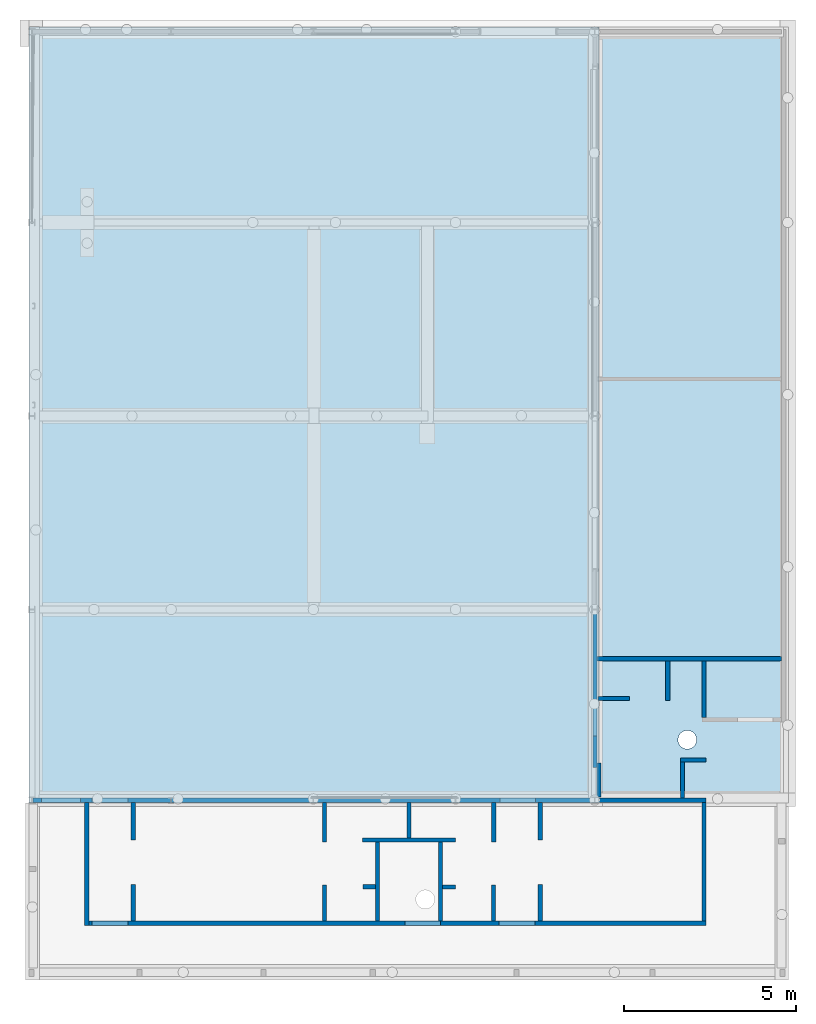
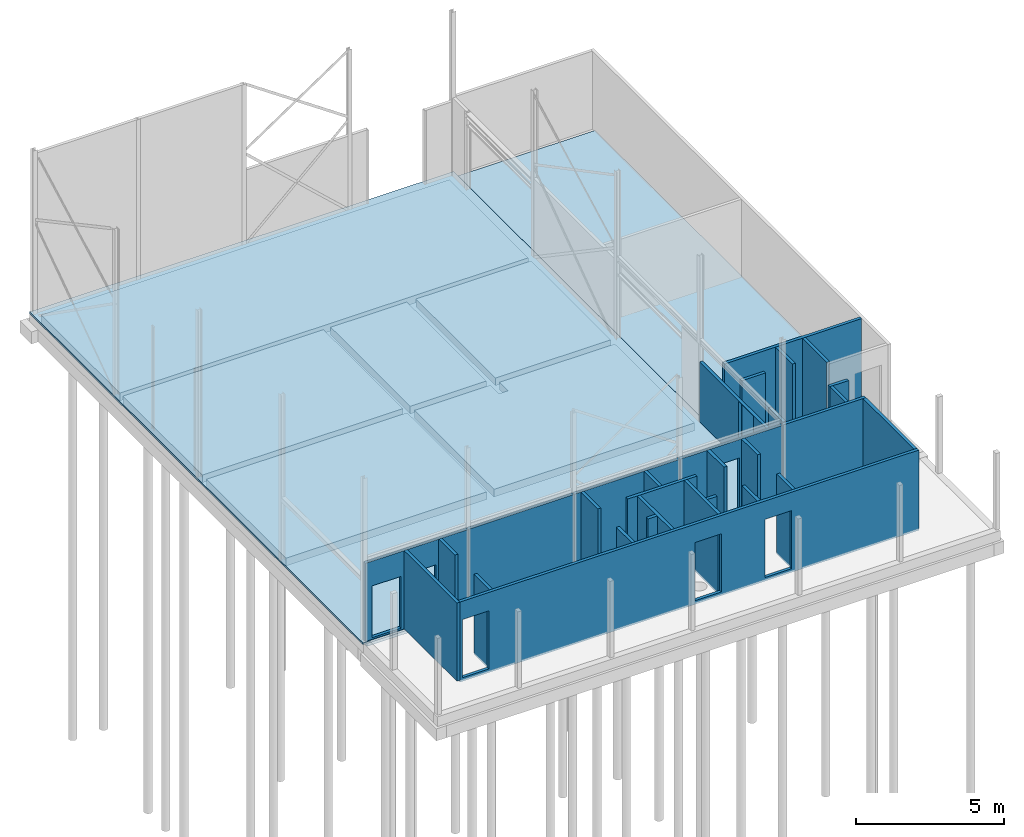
# One storey, part 9 of 17: 30 walls, 9 slabs, 8 openings.
"""IFC2X3 building model written with IfcOpenShell, lengths in millimetres."""

import ifcopenshell
import ifcopenshell.guid

model = None  # the IFC model being written
_history = None  # IfcOwnerHistory: only IFC2X3 demands one
_inside = {}  # id of a spatial element -> (the spatial element, [elements in it])
_under = {}  # id of a project, library or spatial element -> (it, [spatial elements below it])
_declared = {}  # id of a project -> (the project, [libraries it declares])
_typed = {}  # id of a type object -> (the type object, [elements of that type])
_made_of = {}  # id of a material, layer set ... -> (it, [elements and type objects made of it])


def new_model(schema):
    """Start an empty IFC model of exactly this schema.

    Asked for "IFC4X3", IfcOpenShell would pick the latest addendum, in which some entities
    have other attributes; the version numbers below select the first issue.
    IFC2X3 requires an IfcOwnerHistory on every rooted entity: one is made here for all.
    """
    global model, _history
    if schema == "IFC4X3":
        model = ifcopenshell.file(schema_version=(4, 3, 0, 0))
    else:
        model = ifcopenshell.file(schema=schema)
    _inside.clear()
    _under.clear()
    _declared.clear()
    _typed.clear()
    _made_of.clear()
    _history = None
    if model.schema == "IFC2X3":
        org = make("IfcOrganization", Name="unknown")
        user = make(
            "IfcPersonAndOrganization",
            ThePerson=make("IfcPerson", FamilyName="unknown"),
            TheOrganization=org,
        )
        app = make(
            "IfcApplication",
            ApplicationDeveloper=org,
            Version="unknown",
            ApplicationFullName="unknown",
            ApplicationIdentifier="unknown",
        )
        _history = make(
            "IfcOwnerHistory",
            OwningUser=user,
            OwningApplication=app,
            ChangeAction="ADDED",
            CreationDate=0,
        )
    return model


def make(cls, **values):
    """One entity of the class cls with the attributes given. An attribute that is None is left unset."""
    return model.create_entity(
        cls, **{name: value for name, value in values.items() if value is not None}
    )


def entity(cls, *values):
    """Any entity or typed value of the class cls, its attributes in the order of the schema. None: left unset."""
    e = model.create_entity(cls)
    for i, value in enumerate(values):
        if value is not None:
            e[i] = value
    return e


def rooted(cls, **values):
    """An entity with a GlobalId (a new one), such as an element, a storey or a relation."""
    return make(cls, GlobalId=ifcopenshell.guid.new(), OwnerHistory=_history, **values)


def si_unit(unit_type, name, prefix=None):
    """IfcSIUnit, for example si_unit("LENGTHUNIT", "METRE", prefix="MILLI")."""
    return make("IfcSIUnit", UnitType=unit_type, Prefix=prefix, Name=name)


def converted_unit(unit_type, name, factor, base, dimensions=None, offset=None):
    """IfcConversionBasedUnit, such as the inch: factor (a typed value) times the base unit."""
    return make(
        "IfcConversionBasedUnit"
        if offset is None
        else "IfcConversionBasedUnitWithOffset",
        ConversionOffset=offset,
        Dimensions=None
        if dimensions is None
        else entity("IfcDimensionalExponents", *dimensions),
        UnitType=unit_type,
        Name=name,
        ConversionFactor=make(
            "IfcMeasureWithUnit", ValueComponent=factor, UnitComponent=base
        ),
    )


def derived_unit(unit_type, elements):
    """IfcDerivedUnit: a product of units, each with its exponent."""
    return make(
        "IfcDerivedUnit",
        Elements=[
            make("IfcDerivedUnitElement", Unit=unit, Exponent=power)
            for unit, power in elements
        ],
        UnitType=unit_type,
    )


def assignment(units):
    """IfcUnitAssignment: the units of a project."""
    return None if units is None else make("IfcUnitAssignment", Units=units)


def point(xyz):
    """IfcCartesianPoint."""
    return None if xyz is None else make("IfcCartesianPoint", Coordinates=xyz)


def direction(xyz):
    """IfcDirection."""
    return None if xyz is None else make("IfcDirection", DirectionRatios=xyz)


def frame(location, z_axis=None, x_axis=None):
    """IfcAxis2Placement3D, a coordinate frame: its origin and axes. An axis left out is left unset."""
    return make(
        "IfcAxis2Placement3D",
        Location=point(location),
        Axis=direction(z_axis),
        RefDirection=direction(x_axis),
    )


def frame_2d(location, x_axis=None):
    """IfcAxis2Placement2D, a coordinate frame in the plane: its origin and x axis."""
    return make(
        "IfcAxis2Placement2D", Location=point(location), RefDirection=direction(x_axis)
    )


def origin():
    """The frame at (0, 0, 0) with its axes left unset."""
    return frame((0.0, 0.0, 0.0))


def origin_2d_with_axis():
    """The frame at (0, 0) in the plane with the x axis (1, 0) written out."""
    return frame_2d((0.0, 0.0), x_axis=(1.0, 0.0))


def place(relative_to, where):
    """IfcLocalPlacement: puts the frame where relative to a parent placement (None: the world)."""
    return make(
        "IfcLocalPlacement", PlacementRelTo=relative_to, RelativePlacement=where
    )


def context(
    kind, dimensions, precision=None, world=None, true_north=None, identifier=None
):
    """IfcGeometricRepresentationContext, for example the 3D "Model" context."""
    return make(
        "IfcGeometricRepresentationContext",
        ContextIdentifier=identifier,
        ContextType=kind,
        CoordinateSpaceDimension=dimensions,
        Precision=precision,
        WorldCoordinateSystem=world,
        TrueNorth=true_north,
    )


def subcontext(parent, identifier, kind, view, scale=None):
    """IfcGeometricRepresentationSubContext, for example "Body" below "Model"."""
    return make(
        "IfcGeometricRepresentationSubContext",
        ContextIdentifier=identifier,
        ContextType=kind,
        ParentContext=parent,
        TargetScale=scale,
        TargetView=view,
    )


def project(units=None, contexts=None):
    """IfcProject with its units and contexts."""
    return rooted(
        "IfcProject",
        Name="project",
        RepresentationContexts=contexts,
        UnitsInContext=assignment(units),
    )


def spatial(cls, under=None, at=None, **own):
    """A site, building, storey or space (cls), placed at a placement, below another one or the project."""
    s = rooted(cls, ObjectPlacement=at, **own)
    if under is not None:
        _under.setdefault(under.id(), (under, []))[1].append(s)
    return s


def polyline(points):
    """IfcPolyline through the points."""
    return make("IfcPolyline", Points=[point(p) for p in points])


def profile(cls, at=None, kind="AREA", **sizes):
    """A parametric profile (cls). Its sizes go by their IFC names, for example OverallWidth=200.0."""
    return make(cls, ProfileType=kind, Position=at, **sizes)


def rectangle(**sizes):
    """IfcRectangleProfileDef."""
    return profile("IfcRectangleProfileDef", **sizes)


def circle(**sizes):
    """IfcCircleProfileDef."""
    return profile("IfcCircleProfileDef", **sizes)


def outline(outer, holes=None, kind="AREA"):
    """IfcArbitraryClosedProfileDef: a profile drawn as a closed curve; with holes, ...WithVoids."""
    if holes is None:
        return make("IfcArbitraryClosedProfileDef", ProfileType=kind, OuterCurve=outer)
    return make(
        "IfcArbitraryProfileDefWithVoids",
        ProfileType=kind,
        OuterCurve=outer,
        InnerCurves=holes,
    )


def extrude(swept, where, along, depth):
    """IfcExtrudedAreaSolid: the profile swept, set in the frame where, extruded along a direction by depth."""
    return make(
        "IfcExtrudedAreaSolid",
        SweptArea=swept,
        Position=where,
        ExtrudedDirection=direction(along),
        Depth=depth,
    )


def clip(a, b, op="DIFFERENCE"):
    """IfcBooleanClippingResult: the solid a cut by the half space b."""
    return make(
        "IfcBooleanClippingResult", Operator=op, FirstOperand=a, SecondOperand=b
    )


def halfspace(plane, agree):
    """IfcHalfSpaceSolid: all space on one side of the plane z = 0 of the frame plane."""
    return make(
        "IfcHalfSpaceSolid",
        BaseSurface=make("IfcPlane", Position=plane),
        AgreementFlag=agree,
    )


def shape(context_of_items, identifier, shape_type, items):
    """IfcShapeRepresentation: the items that make up one representation, for example the "Body"."""
    return make(
        "IfcShapeRepresentation",
        ContextOfItems=context_of_items,
        RepresentationIdentifier=identifier,
        RepresentationType=shape_type,
        Items=items,
    )


def material(Name=None, Category=None):
    """IfcMaterial."""
    return make("IfcMaterial", Name=Name, Category=Category)


def layer(
    of_material, thickness, ventilated=None, Name=None, Category=None, Priority=None
):
    """IfcMaterialLayer: one layer of a wall or slab, of a material (None: an air gap)."""
    return make(
        "IfcMaterialLayer",
        Material=of_material,
        LayerThickness=thickness,
        IsVentilated=ventilated,
        Name=Name,
        Category=Category,
        Priority=Priority,
    )


def layer_set(layers, Name=None):
    """IfcMaterialLayerSet."""
    return make("IfcMaterialLayerSet", MaterialLayers=layers, LayerSetName=Name)


def layer_usage(for_layer_set, set_direction, sense, offset, extent=None):
    """IfcMaterialLayerSetUsage: how a layer set lies in its element."""
    return make(
        "IfcMaterialLayerSetUsage",
        ForLayerSet=for_layer_set,
        LayerSetDirection=set_direction,
        DirectionSense=sense,
        OffsetFromReferenceLine=offset,
        ReferenceExtent=extent,
    )


def made_of(thing, what):
    """Note that an element or type object is made of a material, layer set ...; save() writes the relation."""
    if what is not None:
        _made_of.setdefault(what.id(), (what, []))[1].append(thing)
    return thing


def type_object(cls, material=None, **own):
    """A type object (cls), such as IfcWallType, which elements share."""
    return made_of(rooted(cls, **own), material)


def element(
    cls,
    number,
    at=None,
    inside=None,
    cuts=None,
    type_object=None,
    material=None,
    context=None,
    identifier="Body",
    shape_type=None,
    held_by="IfcProductDefinitionShape",
    body=None,
    shapes=None,
    **own,
):
    """One element of the class cls, such as IfcWall. Its Tag is "e" and its number.

    at: its placement. inside: the storey or other place that contains it. cuts: it is an
    opening in that element (IfcRelVoidsElement). A single representation is given by context,
    identifier, shape_type and body (its items); several are given by shapes. held_by: the class
    of the entity that holds the representations. save() writes the other relations.
    """
    e = rooted(cls, Tag="e%d" % number, ObjectPlacement=at, **own)
    if body is not None:
        shapes = [shape(context, identifier, shape_type, body)]
    if shapes is not None:
        e.Representation = make(held_by, Representations=shapes)
    if inside is not None:
        _inside.setdefault(inside.id(), (inside, []))[1].append(e)
    if cuts is not None:
        rooted(
            "IfcRelVoidsElement", RelatingBuildingElement=cuts, RelatedOpeningElement=e
        )
    if type_object is not None:
        _typed.setdefault(type_object.id(), (type_object, []))[1].append(e)
    return made_of(e, material)


def aggregate(whole, parts):
    """IfcRelAggregates: a whole, such as a stair, and the parts it consists of."""
    return rooted("IfcRelAggregates", RelatingObject=whole, RelatedObjects=parts)


def save(model, path):
    """Write the relations noted so far, then the file.

    IfcRelAggregates (storeys below a building ...), IfcRelContainedInSpatialStructure (elements
    in a storey), IfcRelDefinesByType, IfcRelAssociatesMaterial and IfcRelDeclares: one each for
    every whole, place, type object, material and project.
    """
    for whole, parts in _under.values():
        aggregate(whole, parts)
    for where, things in _inside.values():
        rooted(
            "IfcRelContainedInSpatialStructure",
            RelatedElements=things,
            RelatingStructure=where,
        )
    for kind, things in _typed.values():
        rooted("IfcRelDefinesByType", RelatedObjects=things, RelatingType=kind)
    for what, things in _made_of.values():
        rooted("IfcRelAssociatesMaterial", RelatedObjects=things, RelatingMaterial=what)
    for by, libraries in _declared.values():
        rooted("IfcRelDeclares", RelatingContext=by, RelatedDefinitions=libraries)
    model.write(path)


model = new_model("IFC2X3")

# Units and contexts
model_context = context("Model", 3, precision=0.01, world=origin(), true_north=direction((6.123031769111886e-17, 1.0)))
plan_context = context("Plan", 3, precision=0.01, world=origin(), true_north=direction((6.123031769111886e-17, 1.0)))
body_context = subcontext(model_context, "Body", "Model", "MODEL_VIEW")
ifc_project = project(units=[si_unit("LENGTHUNIT", "METRE", prefix="MILLI"), si_unit("AREAUNIT", "SQUARE_METRE"), si_unit("VOLUMEUNIT", "CUBIC_METRE"), converted_unit("PLANEANGLEUNIT", "DEGREE", entity("IfcPlaneAngleMeasure", 0.017453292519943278), si_unit("PLANEANGLEUNIT", "RADIAN"), dimensions=[0, 0, 0, 0, 0, 0, 0]), si_unit("MASSUNIT", "GRAM", prefix="KILO"), derived_unit("MASSDENSITYUNIT", [(si_unit("MASSUNIT", "GRAM", prefix="KILO"), 1), (si_unit("LENGTHUNIT", "METRE"), -3)]), derived_unit("IONCONCENTRATIONUNIT", [(si_unit("MASSUNIT", "GRAM", prefix="KILO"), 1), (si_unit("LENGTHUNIT", "METRE"), -3)]), derived_unit("MOMENTOFINERTIAUNIT", [(si_unit("LENGTHUNIT", "METRE"), 4)]), si_unit("TIMEUNIT", "SECOND"), si_unit("FREQUENCYUNIT", "HERTZ"), si_unit("THERMODYNAMICTEMPERATUREUNIT", "DEGREE_CELSIUS"), derived_unit("THERMALTRANSMITTANCEUNIT", [(si_unit("MASSUNIT", "GRAM", prefix="KILO"), 1), (si_unit("THERMODYNAMICTEMPERATUREUNIT", "KELVIN"), -1), (si_unit("TIMEUNIT", "SECOND"), -3)]), derived_unit("THERMALCONDUCTANCEUNIT", [(si_unit("MASSUNIT", "GRAM", prefix="KILO"), 1), (si_unit("THERMODYNAMICTEMPERATUREUNIT", "KELVIN"), -1), (si_unit("TIMEUNIT", "SECOND"), -3), (si_unit("LENGTHUNIT", "METRE"), 1)]), derived_unit("VOLUMETRICFLOWRATEUNIT", [(si_unit("LENGTHUNIT", "METRE", prefix="DECI"), 3), (si_unit("TIMEUNIT", "SECOND"), -1)]), derived_unit("MASSFLOWRATEUNIT", [(si_unit("MASSUNIT", "GRAM", prefix="KILO"), 1), (si_unit("TIMEUNIT", "SECOND"), -1)]), derived_unit("ROTATIONALFREQUENCYUNIT", [(si_unit("TIMEUNIT", "SECOND"), -1)]), si_unit("ELECTRICCURRENTUNIT", "AMPERE"), si_unit("ELECTRICVOLTAGEUNIT", "VOLT"), si_unit("POWERUNIT", "WATT"), si_unit("FORCEUNIT", "NEWTON", prefix="KILO"), si_unit("ILLUMINANCEUNIT", "LUX"), si_unit("LUMINOUSFLUXUNIT", "LUMEN"), si_unit("LUMINOUSINTENSITYUNIT", "CANDELA"), si_unit("ENERGYUNIT", "JOULE"), derived_unit("USERDEFINED", [(si_unit("MASSUNIT", "GRAM", prefix="KILO"), -1), (si_unit("LENGTHUNIT", "METRE"), -2), (si_unit("TIMEUNIT", "SECOND"), 3), (si_unit("LUMINOUSFLUXUNIT", "LUMEN"), 1)]), derived_unit("USERDEFINED", [(si_unit("MASSUNIT", "GRAM", prefix="KILO"), 1), (si_unit("TIMEUNIT", "SECOND"), -3), (si_unit("LENGTHUNIT", "METRE"), 3), (si_unit("ELECTRICCURRENTUNIT", "AMPERE"), -2)]), derived_unit("SOUNDPOWERUNIT", [(si_unit("MASSUNIT", "GRAM", prefix="KILO"), 1), (si_unit("TIMEUNIT", "SECOND"), -3), (si_unit("LENGTHUNIT", "METRE"), 2)]), derived_unit("SOUNDPRESSUREUNIT", [(si_unit("MASSUNIT", "GRAM", prefix="KILO"), 1), (si_unit("LENGTHUNIT", "METRE"), -1), (si_unit("TIMEUNIT", "SECOND"), -2)]), derived_unit("LINEARVELOCITYUNIT", [(si_unit("LENGTHUNIT", "METRE"), 1), (si_unit("TIMEUNIT", "SECOND"), -1)]), si_unit("PRESSUREUNIT", "PASCAL"), derived_unit("USERDEFINED", [(si_unit("MASSUNIT", "GRAM", prefix="KILO"), 1), (si_unit("LENGTHUNIT", "METRE"), -2), (si_unit("TIMEUNIT", "SECOND"), -2)]), derived_unit("LINEARFORCEUNIT", [(si_unit("MASSUNIT", "GRAM", prefix="KILO"), 1), (si_unit("TIMEUNIT", "SECOND"), -2)]), derived_unit("PLANARFORCEUNIT", [(si_unit("MASSUNIT", "GRAM", prefix="KILO"), 1), (si_unit("LENGTHUNIT", "METRE"), -1), (si_unit("TIMEUNIT", "SECOND"), -2)]), derived_unit("SPECIFICHEATCAPACITYUNIT", [(si_unit("THERMODYNAMICTEMPERATUREUNIT", "KELVIN"), -1), (si_unit("LENGTHUNIT", "METRE"), 2), (si_unit("TIMEUNIT", "SECOND"), -2)]), derived_unit("HEATFLUXDENSITYUNIT", [(si_unit("MASSUNIT", "GRAM", prefix="KILO"), 1), (si_unit("TIMEUNIT", "SECOND"), -3)]), derived_unit("HEATINGVALUEUNIT", [(si_unit("LENGTHUNIT", "METRE"), 2), (si_unit("TIMEUNIT", "SECOND"), -2)]), derived_unit("VAPORPERMEABILITYUNIT", [(si_unit("LENGTHUNIT", "METRE"), -1), (si_unit("TIMEUNIT", "SECOND"), 1)]), derived_unit("DYNAMICVISCOSITYUNIT", [(si_unit("MASSUNIT", "GRAM", prefix="KILO"), 1), (si_unit("TIMEUNIT", "SECOND"), -1), (si_unit("LENGTHUNIT", "METRE"), -1)]), derived_unit("THERMALEXPANSIONCOEFFICIENTUNIT", [(si_unit("THERMODYNAMICTEMPERATUREUNIT", "KELVIN"), -1)]), derived_unit("MODULUSOFELASTICITYUNIT", [(si_unit("MASSUNIT", "GRAM", prefix="KILO"), 1), (si_unit("LENGTHUNIT", "METRE"), -1), (si_unit("TIMEUNIT", "SECOND"), -2)]), derived_unit("ISOTHERMALMOISTURECAPACITYUNIT", [(si_unit("MASSUNIT", "GRAM", prefix="KILO"), -1), (si_unit("LENGTHUNIT", "METRE"), 3)]), derived_unit("MOISTUREDIFFUSIVITYUNIT", [(si_unit("TIMEUNIT", "SECOND"), -1), (si_unit("LENGTHUNIT", "METRE"), 2)]), derived_unit("MASSPERLENGTHUNIT", [(si_unit("MASSUNIT", "GRAM", prefix="KILO"), 1), (si_unit("LENGTHUNIT", "METRE"), -1)]), derived_unit("THERMALRESISTANCEUNIT", [(si_unit("MASSUNIT", "GRAM", prefix="KILO"), -1), (si_unit("TIMEUNIT", "SECOND"), 3), (si_unit("THERMODYNAMICTEMPERATUREUNIT", "KELVIN"), 1)]), derived_unit("ACCELERATIONUNIT", [(si_unit("LENGTHUNIT", "METRE"), 1), (si_unit("TIMEUNIT", "SECOND"), -2)]), derived_unit("ANGULARVELOCITYUNIT", [(si_unit("TIMEUNIT", "SECOND"), -1), (si_unit("PLANEANGLEUNIT", "RADIAN"), 1)]), derived_unit("LINEARSTIFFNESSUNIT", [(si_unit("MASSUNIT", "GRAM", prefix="KILO"), 1), (si_unit("TIMEUNIT", "SECOND"), -2)]), derived_unit("WARPINGCONSTANTUNIT", [(si_unit("LENGTHUNIT", "METRE"), 6)]), derived_unit("LINEARMOMENTUNIT", [(si_unit("MASSUNIT", "GRAM", prefix="KILO"), 1), (si_unit("LENGTHUNIT", "METRE"), 1), (si_unit("TIMEUNIT", "SECOND"), -2)]), derived_unit("TORQUEUNIT", [(si_unit("MASSUNIT", "GRAM", prefix="KILO"), 1), (si_unit("LENGTHUNIT", "METRE"), 2), (si_unit("TIMEUNIT", "SECOND"), -2)])], contexts=[model_context, plan_context])

# Site, building, storey
site_placement = place(None, origin())
site = spatial("IfcSite", under=ifc_project, at=site_placement, Name="Default", CompositionType="ELEMENT")
building_placement = place(site_placement, origin())
building = spatial("IfcBuilding", under=site, at=building_placement, CompositionType="ELEMENT")
storey_placement = place(building_placement, origin())
storey = spatial("IfcBuildingStorey", under=building, at=storey_placement, Name="00 begane grond", CompositionType="ELEMENT", Elevation=0.0)

# Slabs
ifc_material_1 = material(Name="prefab beton")
ifc_layer_1 = layer(ifc_material_1, 200.0)
ifc_material_2 = material(Name="EPS vloerisolatie")
ifc_layer_2 = layer(ifc_material_2, 120.0)
ifc_layer_set_1 = layer_set([ifc_layer_1, ifc_layer_2], Name="Floor:23.21_FL_LB_geïsoleerde kanaalplaatvloer 200-Rc=3,7_dw")
ifc_layer_usage_1 = layer_usage(ifc_layer_set_1, "AXIS3", "POSITIVE", 0.0)
slab_type_1 = type_object("IfcSlabType", Name="Floor:23.21_FL_LB_geïsoleerde kanaalplaatvloer 200-Rc=3,7_dw", PredefinedType="FLOOR", material=ifc_layer_set_1)
slab_1_placement = place(storey_placement, frame((34366.19293735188, 16497.670340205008, -470.0)))
element("IfcSlab", 1, at=slab_1_placement, inside=storey, type_object=slab_type_1, material=ifc_layer_usage_1, Name="Floor:23.21_FL_LB_geïsoleerde kanaalplaatvloer 200-Rc=3,7_dw", ObjectType="Floor:23.21_FL_LB_geïsoleerde kanaalplaatvloer 200-Rc=3,7_dw", PredefinedType="FLOOR", context=body_context, shape_type="SweptSolid", body=[
    extrude(rectangle(XDim=5330.000000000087, YDim=15949.999999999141, at=frame_2d((0.0, 8357.500000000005), x_axis=(0.0, -1.0))), frame((7975.0, 11022.500000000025, 320.0), z_axis=(0.0, 0.0, -1.0), x_axis=(-1.0, 0.0, 0.0)), (0.0, 0.0, 1.0), 320.0),
])
slab_2_placement = place(storey_placement, frame((34366.19293735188, 16497.670340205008, -470.0)))
element("IfcSlab", 2, at=slab_2_placement, inside=storey, type_object=slab_type_1, material=ifc_layer_usage_1, Name="Floor:23.21_FL_LB_geïsoleerde kanaalplaatvloer 200-Rc=3,7_dw:2", ObjectType="Floor:23.21_FL_LB_geïsoleerde kanaalplaatvloer 200-Rc=3,7_dw", PredefinedType="FLOOR", context=body_context, shape_type="SweptSolid", body=[
    extrude(rectangle(XDim=7838.955664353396, YDim=5379.999999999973, at=frame_2d((4055.522167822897, -2857.5000000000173), x_axis=(-1.0, 0.0))), frame((7975.0, 11022.500000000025, 320.0), z_axis=(0.0, 0.0, -1.0), x_axis=(-1.0, 0.0, 0.0)), (0.0, 0.0, 1.0), 320.0),
])
slab_3_placement = place(storey_placement, frame((34366.19293735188, 16497.670340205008, -470.0)))
element("IfcSlab", 3, at=slab_3_placement, inside=storey, type_object=slab_type_1, material=ifc_layer_usage_1, Name="Floor:23.21_FL_LB_geïsoleerde kanaalplaatvloer 200-Rc=3,7_dw:3", ObjectType="Floor:23.21_FL_LB_geïsoleerde kanaalplaatvloer 200-Rc=3,7_dw", PredefinedType="FLOOR", context=body_context, shape_type="SweptSolid", body=[
    extrude(rectangle(XDim=5274.999999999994, YDim=15949.999999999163, at=frame_2d((0.0, -8385.0), x_axis=(0.0, 1.0))), frame((7975.0, 11022.500000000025, 320.0), z_axis=(0.0, 0.0, -1.0), x_axis=(-1.0, 0.0, 0.0)), (0.0, 0.0, 1.0), 320.0),
])
slab_4_placement = place(storey_placement, frame((34366.19293735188, 16497.670340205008, -470.0)))
element("IfcSlab", 4, at=slab_4_placement, inside=storey, type_object=slab_type_1, material=ifc_layer_usage_1, Name="Floor:23.21_FL_LB_geïsoleerde kanaalplaatvloer 200-Rc=3,7_dw:4", ObjectType="Floor:23.21_FL_LB_geïsoleerde kanaalplaatvloer 200-Rc=3,7_dw", PredefinedType="FLOOR", context=body_context, shape_type="SweptSolid", body=[
    extrude(outline(polyline([(-7975.0, -5547.500000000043), (-143.95566435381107, -5547.500000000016), (-143.95566435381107, -5447.500000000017), (-143.95566435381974, -167.50000000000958), (-3115.466666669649, -167.50000000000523), (-3115.466666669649, -747.500000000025), (-3465.4666666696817, -747.500000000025), (-3465.4666666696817, -167.50000000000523), (-7975.0, -167.50000000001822), (-7975.0, -5547.500000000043)])), frame((7975.0, 11022.500000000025, 320.0), z_axis=(0.0, 0.0, -1.0), x_axis=(-1.0, 0.0, 0.0)), (0.0, 0.0, 1.0), 320.0),
])
slab_5_placement = place(storey_placement, frame((34366.19293735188, 16497.670340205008, -470.0)))
element("IfcSlab", 5, at=slab_5_placement, inside=storey, type_object=slab_type_1, material=ifc_layer_usage_1, Name="Floor:23.21_FL_LB_geïsoleerde kanaalplaatvloer 200-Rc=3,7_dw:5", ObjectType="Floor:23.21_FL_LB_geïsoleerde kanaalplaatvloer 200-Rc=3,7_dw", PredefinedType="FLOOR", context=body_context, shape_type="SweptSolid", body=[
    extrude(rectangle(XDim=4504.533333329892, YDim=5379.999999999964, at=frame_2d((-5722.733333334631, 2802.4999999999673), x_axis=(-1.0, 0.0))), frame((7975.0, 11022.500000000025, 320.0), z_axis=(0.0, 0.0, -1.0), x_axis=(-1.0, 0.0, 0.0)), (0.0, 0.0, 1.0), 320.0),
])
slab_6_placement = place(storey_placement, frame((34366.19293735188, 16497.670340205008, -470.0)))
element("IfcSlab", 6, at=slab_6_placement, inside=storey, type_object=slab_type_1, material=ifc_layer_usage_1, Name="Floor:23.21_FL_LB_geïsoleerde kanaalplaatvloer 200-Rc=3,7_dw:6", ObjectType="Floor:23.21_FL_LB_geïsoleerde kanaalplaatvloer 200-Rc=3,7_dw", PredefinedType="FLOOR", context=body_context, shape_type="SweptSolid", body=[
    extrude(rectangle(XDim=2976.5110023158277, YDim=5379.999999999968, at=frame_2d((-1632.211165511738, 2802.49999999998), x_axis=(1.0, 0.0))), frame((7975.0, 11022.500000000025, 320.0), z_axis=(0.0, 0.0, -1.0), x_axis=(-1.0, 0.0, 0.0)), (0.0, 0.0, 1.0), 320.0),
])
slab_7_placement = place(storey_placement, frame((34366.19293735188, 16497.670340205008, -470.0)))
element("IfcSlab", 7, at=slab_7_placement, inside=storey, type_object=slab_type_1, material=ifc_layer_usage_1, Name="Floor:23.21_FL_LB_geïsoleerde kanaalplaatvloer 200-Rc=3,7_dw:7", ObjectType="Floor:23.21_FL_LB_geïsoleerde kanaalplaatvloer 200-Rc=3,7_dw", PredefinedType="FLOOR", context=body_context, shape_type="SweptSolid", body=[
    extrude(rectangle(XDim=7838.955664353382, YDim=5380.0000000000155, at=frame_2d((4055.522167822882, 2802.4999999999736), x_axis=(1.0, 0.0))), frame((7975.0, 11022.500000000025, 320.0), z_axis=(0.0, 0.0, -1.0), x_axis=(-1.0, 0.0, 0.0)), (0.0, 0.0, 1.0), 320.0),
])

# Slab, opening
ifc_layer_3 = layer(ifc_material_1, 200.0)
ifc_layer_4 = layer(ifc_material_2, 200.0)
ifc_layer_set_2 = layer_set([ifc_layer_3, ifc_layer_4], Name="Floor:23.21_FL_LB_geïsoleerde kanaalplaatvloer 200-Rc=6,5_dw")
ifc_layer_usage_2 = layer_usage(ifc_layer_set_2, "AXIS3", "POSITIVE", 0.0)
slab_type_2 = type_object("IfcSlabType", Name="Floor:23.21_FL_LB_geïsoleerde kanaalplaatvloer 200-Rc=6,5_dw", PredefinedType="FLOOR", material=ifc_layer_set_2)
slab_8_placement = place(storey_placement, frame((50616.19293735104, 16547.670340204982, -470.0)))
slab_8 = element("IfcSlab", 8, at=slab_8_placement, inside=storey, type_object=slab_type_2, material=ifc_layer_usage_2, Name="Floor:23.21_FL_LB_geïsoleerde kanaalplaatvloer 200-Rc=6,5_dw", ObjectType="Floor:23.21_FL_LB_geïsoleerde kanaalplaatvloer 200-Rc=6,5_dw", PredefinedType="FLOOR", context=body_context, shape_type="SweptSolid", body=[
    extrude(rectangle(XDim=21945.00000000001, YDim=5360.000000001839, at=frame_2d((0.0, 0.0), x_axis=(0.0, -1.0))), frame((2680.0, 10972.500000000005, 400.0), z_axis=(0.0, 0.0, -1.0), x_axis=(-1.0, 0.0, 0.0)), (0.0, 0.0, 1.0), 400.0),
])
opening_1_placement = place(slab_8_placement, origin())
element("IfcOpeningElement", 9, at=opening_1_placement, cuts=slab_8, Name="Floor:23.21_FL_LB_geïsoleerde kanaalplaatvloer 200-Rc=6,5_dw", ObjectType="Opening", context=body_context, shape_type="SweptSolid", body=[
    extrude(circle(Radius=269.9999999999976, at=origin_2d_with_axis()), frame((2570.000000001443, 1542.0000000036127, -1124.0), z_axis=(0.0, 0.0, 1.0), x_axis=(0.0, 1.0, 0.0)), (0.0, 0.0, 1.0), 3048.0),
])

# Slab
ifc_material_3 = material(Name="ihwg beton")
ifc_layer_5 = layer(ifc_material_3, 80.0)
ifc_layer_set_3 = layer_set([ifc_layer_5], Name="Floor:23.20_FL_LB_druklaag 80_dw")
ifc_layer_usage_3 = layer_usage(ifc_layer_set_3, "AXIS3", "POSITIVE", 0.0)
slab_type_3 = type_object("IfcSlabType", Name="Floor:23.20_FL_LB_druklaag 80_dw", PredefinedType="FLOOR", material=ifc_layer_set_3)
slab_9_placement = place(storey_placement, origin())
element("IfcSlab", 10, at=slab_9_placement, inside=storey, type_object=slab_type_3, material=ifc_layer_usage_3, Name="Floor:23.20_FL_LB_druklaag 80_dw", ObjectType="Floor:23.20_FL_LB_druklaag 80_dw", PredefinedType="FLOOR", context=body_context, shape_type="SweptSolid", body=[
    extrude(rectangle(XDim=22540.00000000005, YDim=16549.99999999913, at=frame_2d((-9.094947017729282e-13, 0.0), x_axis=(1.0, 0.0))), frame((42341.192937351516, 27522.670340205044, -70.0), z_axis=(0.0, 0.0, -1.0), x_axis=(0.0, 1.0, 0.0)), (0.0, 0.0, 1.0), 80.00000000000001),
])

# Walls
ifc_material_4 = material(Name="kalkzandsteen lijmelementen CS12")
ifc_layer_6 = layer(ifc_material_4, 120.0)
ifc_layer_set_4 = layer_set([ifc_layer_6], Name="Basic Wall:21.22_WA_TLB_kalkzandsteen 120-CS12_dw")
ifc_layer_usage_4 = layer_usage(ifc_layer_set_4, "AXIS2", "NEGATIVE", 60.0)
wall_type = type_object("IfcWallType", Name="Basic Wall:21.22_WA_TLB_kalkzandsteen 120-CS12_dw", PredefinedType="STANDARD", material=ifc_layer_set_4)
wall_1_placement = place(storey_placement, frame((50504.44293735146, 16332.670491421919, -150.0)))
element("IfcWallStandardCase", 11, at=wall_1_placement, inside=storey, type_object=wall_type, material=ifc_layer_usage_4, Name="Basic Wall:21.22_WA_TLB_kalkzandsteen 120-CS12_dw", ObjectType="Basic Wall:21.22_WA_TLB_kalkzandsteen 120-CS12_dw", context=body_context, shape_type="SweptSolid", body=[
    extrude(rectangle(XDim=3221.7499999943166, YDim=119.9999999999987, at=frame_2d((1610.8749999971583, -3.517186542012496e-13), x_axis=(-1.0, 0.0))), origin(), (0.0, 0.0, 1.0), 3310.0000000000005),
])
ifc_layer_usage_5 = layer_usage(ifc_layer_set_4, "AXIS2", "NEGATIVE", 60.0)
wall_2_placement = place(storey_placement, frame((53666.19293734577, 16272.670491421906, -70.0), z_axis=(0.0, 0.0, 1.0), x_axis=(0.0, -1.0, 0.0)))
element("IfcWallStandardCase", 12, at=wall_2_placement, inside=storey, type_object=wall_type, material=ifc_layer_usage_5, Name="Basic Wall:21.22_WA_TLB_kalkzandsteen 120-CS12_dw", ObjectType="Basic Wall:21.22_WA_TLB_kalkzandsteen 120-CS12_dw", context=body_context, shape_type="SweptSolid", body=[
    extrude(rectangle(XDim=3450.0000040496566, YDim=120.00000000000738, at=frame_2d((1725.0000020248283, 0.0), x_axis=(-1.0, 0.0))), origin(), (0.0, 0.0, 1.0), 3230.0000000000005),
])

# Wall, openings
ifc_layer_usage_6 = layer_usage(ifc_layer_set_4, "AXIS2", "NEGATIVE", 60.0)
wall_3_placement = place(storey_placement, frame((35806.192937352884, 12762.670487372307, -150.0)))
wall_3 = element("IfcWallStandardCase", 13, at=wall_3_placement, inside=storey, type_object=wall_type, material=ifc_layer_usage_6, Name="Basic Wall:21.22_WA_TLB_kalkzandsteen 120-CS12_dw", ObjectType="Basic Wall:21.22_WA_TLB_kalkzandsteen 120-CS12_dw", context=body_context, shape_type="SweptSolid", body=[
    extrude(rectangle(XDim=17919.999999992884, YDim=119.9999999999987, at=frame_2d((8959.999999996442, 3.552713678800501e-15), x_axis=(-1.0, 0.0))), origin(), (0.0, 0.0, 1.0), 3310.0000000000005),
])
opening_2_placement = place(wall_3_placement, origin())
element("IfcOpeningElement", 14, at=opening_2_placement, cuts=wall_3, Name="Basic Wall:21.22_WA_TLB_kalkzandsteen 120-CS12_dw", ObjectType="Opening", context=body_context, shape_type="SweptSolid", body=[
    extrude(rectangle(XDim=2399.9999999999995, YDim=1034.000000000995, at=frame_2d((0.0, 0.0), x_axis=(0.0, 1.0))), frame((9693.000000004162, 60.0, 1350.0), z_axis=(0.0, -1.0, 0.0), x_axis=(-1.0, 0.0, 0.0)), (0.0, 0.0, 1.0), 120.0),
])
opening_3_placement = place(wall_3_placement, origin())
element("IfcOpeningElement", 15, at=opening_3_placement, cuts=wall_3, Name="Basic Wall:21.22_WA_TLB_kalkzandsteen 120-CS12_dw", ObjectType="Opening", context=body_context, shape_type="SweptSolid", body=[
    extrude(rectangle(XDim=2399.9999999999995, YDim=1033.9999753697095, at=frame_2d((4.320099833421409e-12, 0.0), x_axis=(0.0, 1.0))), frame((12434.999987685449, 60.0, 1350.0), z_axis=(0.0, -1.0, 0.0), x_axis=(-1.0, 0.0, 0.0)), (0.0, 0.0, 1.0), 120.0),
])
opening_4_placement = place(wall_3_placement, origin())
element("IfcOpeningElement", 16, at=opening_4_placement, cuts=wall_3, Name="Basic Wall:21.22_WA_TLB_kalkzandsteen 120-CS12_dw", ObjectType="Opening", context=body_context, shape_type="SweptSolid", body=[
    extrude(rectangle(XDim=2399.999999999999, YDim=1033.9999599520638, at=frame_2d((0.0, -1.1368683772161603e-13), x_axis=(0.0, 1.0))), frame((614.9999848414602, 60.0, 1350.0), z_axis=(0.0, -1.0, 0.0), x_axis=(-1.0, 0.0, 0.0)), (0.0, 0.0, 1.0), 120.0),
])

# Walls
ifc_layer_usage_7 = layer_usage(ifc_layer_set_4, "AXIS2", "NEGATIVE", 60.0)
wall_4_placement = place(storey_placement, frame((48916.192937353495, 16272.67049142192, -70.0), z_axis=(0.0, 0.0, 1.0), x_axis=(0.0, -1.0, 0.0)))
element("IfcWallStandardCase", 17, at=wall_4_placement, inside=storey, type_object=wall_type, material=ifc_layer_usage_7, Name="Basic Wall:21.22_WA_TLB_kalkzandsteen 120-CS12_dw", ObjectType="Basic Wall:21.22_WA_TLB_kalkzandsteen 120-CS12_dw", context=body_context, shape_type="SweptSolid", body=[
    extrude(rectangle(XDim=1090.0000278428, YDim=120.00000000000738, at=frame_2d((545.0000139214, 0.0), x_axis=(-1.0, 0.0))), origin(), (0.0, 0.0, 1.0), 3230.0000000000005),
])
ifc_layer_usage_8 = layer_usage(ifc_layer_set_4, "AXIS2", "NEGATIVE", 60.0)
wall_5_placement = place(storey_placement, frame((48916.19293735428, 13882.670463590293, -150.0), z_axis=(0.0, 0.0, 1.0), x_axis=(0.0, -1.0, 0.0)))
element("IfcWallStandardCase", 18, at=wall_5_placement, inside=storey, type_object=wall_type, material=ifc_layer_usage_8, Name="Basic Wall:21.22_WA_TLB_kalkzandsteen 120-CS12_dw", ObjectType="Basic Wall:21.22_WA_TLB_kalkzandsteen 120-CS12_dw", context=body_context, shape_type="SweptSolid", body=[
    extrude(rectangle(XDim=1059.9999762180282, YDim=120.00000000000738, at=frame_2d((529.9999881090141, 0.0), x_axis=(-1.0, 0.0))), origin(), (0.0, 0.0, 1.0), 3310.0000000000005),
])

# Wall, opening
ifc_layer_usage_9 = layer_usage(ifc_layer_set_4, "AXIS2", "NEGATIVE", 60.0)
wall_6_placement = place(storey_placement, frame((50506.19293735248, 17287.67046359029, -70.0), z_axis=(0.0, 0.0, 1.0), x_axis=(0.0, 1.0, 0.0)))
wall_6 = element("IfcWallStandardCase", 19, at=wall_6_placement, inside=storey, type_object=wall_type, material=ifc_layer_usage_9, Name="Basic Wall:21.22_WA_TLB_kalkzandsteen 120-CS12_dw", ObjectType="Basic Wall:21.22_WA_TLB_kalkzandsteen 120-CS12_dw", context=body_context, shape_type="Clipping", body=[
    clip(extrude(rectangle(XDim=4570.00002213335, YDim=120.00000000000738, at=frame_2d((2285.000011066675, 0.0), x_axis=(-1.0, 0.0))), origin(), (0.0, 0.0, 1.0), 2465.000000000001), halfspace(frame((0.0, -60.0, 2465.0), z_axis=(0.0, 0.0, 1.0), x_axis=(0.0, 1.0, 0.0)), False)),
])
opening_5_placement = place(wall_6_placement, origin())
element("IfcOpeningElement", 20, at=opening_5_placement, cuts=wall_6, Name="Basic Wall:21.22_WA_TLB_kalkzandsteen 120-CS12_dw", ObjectType="Opening", context=body_context, shape_type="SweptSolid", body=[
    extrude(rectangle(XDim=2366.9999999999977, YDim=1033.9999964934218, at=frame_2d((0.0, -1.0800249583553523e-12), x_axis=(1.0, 0.0))), frame((1427.9999899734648, 60.0, 1253.4999999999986), z_axis=(0.0, -1.0, 0.0), x_axis=(0.0, 0.0, -1.0)), (0.0, 0.0, 1.0), 120.0),
])

# Walls
ifc_layer_usage_10 = layer_usage(ifc_layer_set_4, "AXIS2", "NEGATIVE", 60.0)
wall_7_placement = place(storey_placement, frame((52986.19293735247, 17502.67046359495, -150.0)))
element("IfcWallStandardCase", 21, at=wall_7_placement, inside=storey, type_object=wall_type, material=ifc_layer_usage_10, Name="Basic Wall:21.22_WA_TLB_kalkzandsteen 120-CS12_dw", ObjectType="Basic Wall:21.22_WA_TLB_kalkzandsteen 120-CS12_dw", context=body_context, shape_type="SweptSolid", body=[
    extrude(rectangle(XDim=740.0000000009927, YDim=119.9999999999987, at=frame_2d((370.00000000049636, 8.171241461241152e-14), x_axis=(-1.0, 0.0))), origin(), (0.0, 0.0, 1.0), 3310.0000000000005),
])
ifc_layer_usage_11 = layer_usage(ifc_layer_set_4, "AXIS2", "NEGATIVE", 60.0)
wall_8_placement = place(storey_placement, frame((53046.19293735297, 16392.670491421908, -150.0), z_axis=(0.0, 0.0, 1.0), x_axis=(0.0, 1.0, 0.0)))
element("IfcWallStandardCase", 22, at=wall_8_placement, inside=storey, type_object=wall_type, material=ifc_layer_usage_11, Name="Basic Wall:21.22_WA_TLB_kalkzandsteen 120-CS12_dw", ObjectType="Basic Wall:21.22_WA_TLB_kalkzandsteen 120-CS12_dw", context=body_context, shape_type="SweptSolid", body=[
    extrude(rectangle(XDim=1049.9999721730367, YDim=120.00000000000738, at=frame_2d((524.9999860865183, 0.0), x_axis=(-1.0, 0.0))), origin(), (0.0, 0.0, 1.0), 3310.0000000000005),
])
ifc_layer_usage_12 = layer_usage(ifc_layer_set_4, "AXIS2", "NEGATIVE", 60.0)
wall_9_placement = place(storey_placement, frame((47566.19293735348, 16272.670491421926, -70.0), z_axis=(0.0, 0.0, 1.0), x_axis=(0.0, -1.0, 0.0)))
element("IfcWallStandardCase", 23, at=wall_9_placement, inside=storey, type_object=wall_type, material=ifc_layer_usage_12, Name="Basic Wall:21.22_WA_TLB_kalkzandsteen 120-CS12_dw", ObjectType="Basic Wall:21.22_WA_TLB_kalkzandsteen 120-CS12_dw", context=body_context, shape_type="SweptSolid", body=[
    extrude(rectangle(XDim=1150.0001040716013, YDim=120.00000000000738, at=frame_2d((575.0000520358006, 0.0), x_axis=(-1.0, 0.0))), origin(), (0.0, 0.0, 1.0), 3230.0000000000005),
])
ifc_layer_usage_13 = layer_usage(ifc_layer_set_4, "AXIS2", "NEGATIVE", 60.0)
wall_10_placement = place(storey_placement, frame((46016.19293735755, 15122.670463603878, -150.0), z_axis=(0.0, 0.0, 1.0), x_axis=(0.0, -1.0, 0.0)))
element("IfcWallStandardCase", 24, at=wall_10_placement, inside=storey, type_object=wall_type, material=ifc_layer_usage_13, Name="Basic Wall:21.22_WA_TLB_kalkzandsteen 120-CS12_dw", ObjectType="Basic Wall:21.22_WA_TLB_kalkzandsteen 120-CS12_dw", context=body_context, shape_type="SweptSolid", body=[
    extrude(rectangle(XDim=2299.9999762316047, YDim=120.00000000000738, at=frame_2d((1149.9999881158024, 0.0), x_axis=(-1.0, 0.0))), origin(), (0.0, 0.0, 1.0), 3310.0000000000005),
])
ifc_layer_usage_14 = layer_usage(ifc_layer_set_4, "AXIS2", "NEGATIVE", 60.0)
wall_11_placement = place(storey_placement, frame((43750.19293735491, 15182.670463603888, -150.0)))
element("IfcWallStandardCase", 25, at=wall_11_placement, inside=storey, type_object=wall_type, material=ifc_layer_usage_14, Name="Basic Wall:21.22_WA_TLB_kalkzandsteen 120-CS12_dw", ObjectType="Basic Wall:21.22_WA_TLB_kalkzandsteen 120-CS12_dw", context=body_context, shape_type="SweptSolid", body=[
    extrude(rectangle(XDim=2704.9999999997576, YDim=119.99999999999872, at=frame_2d((1352.4999999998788, 7.815970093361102e-14), x_axis=(-1.0, 0.0))), origin(), (0.0, 0.0, 1.0), 3310.0000000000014),
])
ifc_layer_usage_15 = layer_usage(ifc_layer_set_4, "AXIS2", "NEGATIVE", 60.0)
wall_12_placement = place(storey_placement, frame((44186.192937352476, 15122.670463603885, -150.0), z_axis=(0.0, 0.0, 1.0), x_axis=(0.0, -1.0, 0.0)))
element("IfcWallStandardCase", 26, at=wall_12_placement, inside=storey, type_object=wall_type, material=ifc_layer_usage_15, Name="Basic Wall:21.22_WA_TLB_kalkzandsteen 120-CS12_dw", ObjectType="Basic Wall:21.22_WA_TLB_kalkzandsteen 120-CS12_dw", context=body_context, shape_type="SweptSolid", body=[
    extrude(rectangle(XDim=2299.9999762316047, YDim=120.00000000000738, at=frame_2d((1149.9999881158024, 0.0), x_axis=(-1.0, 0.0))), origin(), (0.0, 0.0, 1.0), 3310.0000000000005),
])
ifc_layer_usage_16 = layer_usage(ifc_layer_set_4, "AXIS2", "NEGATIVE", 60.0)
wall_13_placement = place(storey_placement, frame((45106.19293735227, 16272.670463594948, -70.0), z_axis=(0.0, 0.0, 1.0), x_axis=(0.0, -1.0, 0.0)))
element("IfcWallStandardCase", 27, at=wall_13_placement, inside=storey, type_object=wall_type, material=ifc_layer_usage_16, Name="Basic Wall:21.22_WA_TLB_kalkzandsteen 120-CS12_dw", ObjectType="Basic Wall:21.22_WA_TLB_kalkzandsteen 120-CS12_dw", context=body_context, shape_type="SweptSolid", body=[
    extrude(rectangle(XDim=1029.999999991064, YDim=120.00000000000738, at=frame_2d((514.999999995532, 0.0), x_axis=(-1.0, 0.0))), origin(), (0.0, 0.0, 1.0), 3230.0000000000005),
])
ifc_layer_usage_17 = layer_usage(ifc_layer_set_4, "AXIS2", "NEGATIVE", 60.0)
wall_14_placement = place(storey_placement, frame((42646.22552050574, 16272.670463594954, -70.0), z_axis=(0.0, 0.0, 1.0), x_axis=(0.0, -1.0, 0.0)))
element("IfcWallStandardCase", 28, at=wall_14_placement, inside=storey, type_object=wall_type, material=ifc_layer_usage_17, Name="Basic Wall:21.22_WA_TLB_kalkzandsteen 120-CS12_dw", ObjectType="Basic Wall:21.22_WA_TLB_kalkzandsteen 120-CS12_dw", context=body_context, shape_type="SweptSolid", body=[
    extrude(rectangle(XDim=1150.0000612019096, YDim=120.00000000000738, at=frame_2d((575.0000306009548, 0.0), x_axis=(-1.0, 0.0))), origin(), (0.0, 0.0, 1.0), 3230.0000000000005),
])
ifc_layer_usage_18 = layer_usage(ifc_layer_set_4, "AXIS2", "POSITIVE", -60.0)
wall_15_placement = place(storey_placement, frame((42646.19293735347, 13872.670463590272, -150.0), z_axis=(0.0, 0.0, 1.0), x_axis=(0.0, -1.0, 0.0)))
element("IfcWallStandardCase", 29, at=wall_15_placement, inside=storey, type_object=wall_type, material=ifc_layer_usage_18, Name="Basic Wall:21.22_WA_TLB_kalkzandsteen 120-CS12_dw", ObjectType="Basic Wall:21.22_WA_TLB_kalkzandsteen 120-CS12_dw", context=body_context, shape_type="SweptSolid", body=[
    extrude(rectangle(XDim=1049.999976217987, YDim=120.00000000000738, at=frame_2d((524.9999881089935, 0.0), x_axis=(-1.0, 0.0))), origin(), (0.0, 0.0, 1.0), 3310.0000000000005),
])
ifc_layer_usage_19 = layer_usage(ifc_layer_set_4, "AXIS2", "POSITIVE", -60.0)
wall_16_placement = place(storey_placement, frame((44126.19293735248, 13822.670463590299, -150.0), z_axis=(0.0, 0.0, 1.0), x_axis=(-1.0, 0.0, 0.0)))
element("IfcWallStandardCase", 30, at=wall_16_placement, inside=storey, type_object=wall_type, material=ifc_layer_usage_19, Name="Basic Wall:21.22_WA_TLB_kalkzandsteen 120-CS12_dw", ObjectType="Basic Wall:21.22_WA_TLB_kalkzandsteen 120-CS12_dw", context=body_context, shape_type="SweptSolid", body=[
    extrude(rectangle(XDim=356.00000000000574, YDim=119.9999999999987, at=frame_2d((178.00000000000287, 5.044853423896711e-13), x_axis=(-1.0, 0.0))), origin(), (0.0, 0.0, 1.0), 3310.0000000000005),
])
ifc_layer_usage_20 = layer_usage(ifc_layer_set_4, "AXIS2", "NEGATIVE", 60.0)
wall_17_placement = place(storey_placement, frame((37096.19293735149, 16272.670463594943, -70.0), z_axis=(0.0, 0.0, 1.0), x_axis=(0.0, -1.0, 0.0)))
element("IfcWallStandardCase", 31, at=wall_17_placement, inside=storey, type_object=wall_type, material=ifc_layer_usage_20, Name="Basic Wall:21.22_WA_TLB_kalkzandsteen 120-CS12_dw", ObjectType="Basic Wall:21.22_WA_TLB_kalkzandsteen 120-CS12_dw", context=body_context, shape_type="SweptSolid", body=[
    extrude(rectangle(XDim=1090.000000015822, YDim=119.9999999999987, at=frame_2d((545.000000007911, 0.0), x_axis=(-1.0, 0.0))), origin(), (0.0, 0.0, 1.0), 3230.0000000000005),
])
ifc_layer_usage_21 = layer_usage(ifc_layer_set_4, "AXIS2", "POSITIVE", -60.0)
wall_18_placement = place(storey_placement, frame((37096.19294629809, 13882.670463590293, -150.0), z_axis=(0.0, 0.0, 1.0), x_axis=(0.0, -1.0, 0.0)))
element("IfcWallStandardCase", 32, at=wall_18_placement, inside=storey, type_object=wall_type, material=ifc_layer_usage_21, Name="Basic Wall:21.22_WA_TLB_kalkzandsteen 120-CS12_dw", ObjectType="Basic Wall:21.22_WA_TLB_kalkzandsteen 120-CS12_dw", context=body_context, shape_type="SweptSolid", body=[
    extrude(rectangle(XDim=1059.9999762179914, YDim=119.9999999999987, at=frame_2d((529.9999881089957, 0.0), x_axis=(-1.0, 0.0))), origin(), (0.0, 0.0, 1.0), 3310.0000000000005),
])
ifc_layer_usage_22 = layer_usage(ifc_layer_set_4, "AXIS2", "POSITIVE", -60.0)
wall_19_placement = place(storey_placement, frame((35746.192937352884, 16272.670463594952, -70.0), z_axis=(0.0, 0.0, 1.0), x_axis=(0.0, -1.0, 0.0)))
element("IfcWallStandardCase", 33, at=wall_19_placement, inside=storey, type_object=wall_type, material=ifc_layer_usage_22, Name="Basic Wall:21.22_WA_TLB_kalkzandsteen 120-CS12_dw", ObjectType="Basic Wall:21.22_WA_TLB_kalkzandsteen 120-CS12_dw", context=body_context, shape_type="SweptSolid", body=[
    extrude(rectangle(XDim=3569.999999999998, YDim=119.9999999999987, at=frame_2d((1784.999999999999, 0.0), x_axis=(-1.0, 0.0))), origin(), (0.0, 0.0, 1.0), 3230.0000000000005),
])
ifc_layer_usage_23 = layer_usage(ifc_layer_set_4, "AXIS2", "NEGATIVE", 60.0)
wall_20_placement = place(storey_placement, frame((50586.19293735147, 19292.670469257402, -150.0)))
element("IfcWallStandardCase", 34, at=wall_20_placement, inside=storey, type_object=wall_type, material=ifc_layer_usage_23, Name="Basic Wall:21.22_WA_TLB_kalkzandsteen 120-CS12_dw", ObjectType="Basic Wall:21.22_WA_TLB_kalkzandsteen 120-CS12_dw", context=body_context, shape_type="SweptSolid", body=[
    extrude(rectangle(XDim=925.999992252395, YDim=119.9999999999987, at=frame_2d((462.9999961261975, 3.730349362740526e-13), x_axis=(-1.0, 0.0))), origin(), (0.0, 0.0, 1.0), 3310.0000000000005),
])
ifc_layer_usage_24 = layer_usage(ifc_layer_set_4, "AXIS2", "NEGATIVE", 60.0)
wall_21_placement = place(storey_placement, frame((53666.19293735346, 20382.670463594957, -150.0), z_axis=(0.0, 0.0, 1.0), x_axis=(0.0, -1.0, 0.0)))
element("IfcWallStandardCase", 35, at=wall_21_placement, inside=storey, type_object=wall_type, material=ifc_layer_usage_24, Name="Basic Wall:21.22_WA_TLB_kalkzandsteen 120-CS12_dw", ObjectType="Basic Wall:21.22_WA_TLB_kalkzandsteen 120-CS12_dw", context=body_context, shape_type="SweptSolid", body=[
    extrude(rectangle(XDim=1649.9999999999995, YDim=120.00000000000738, at=frame_2d((824.9999999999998, 0.0), x_axis=(-1.0, 0.0))), origin(), (0.0, 0.0, 1.0), 3310.0000000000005),
])
ifc_layer_usage_25 = layer_usage(ifc_layer_set_4, "AXIS2", "NEGATIVE", 60.0)
wall_22_placement = place(storey_placement, frame((50566.192937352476, 20442.670463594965, -150.0)))
element("IfcWallStandardCase", 36, at=wall_22_placement, inside=storey, type_object=wall_type, material=ifc_layer_usage_25, Name="Basic Wall:21.22_WA_TLB_kalkzandsteen 120-CS12_dw", ObjectType="Basic Wall:21.22_WA_TLB_kalkzandsteen 120-CS12_dw", context=body_context, shape_type="SweptSolid", body=[
    extrude(rectangle(XDim=5360.000000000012, YDim=119.9999999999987, at=frame_2d((2680.000000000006, -2.4158453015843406e-13), x_axis=(-1.0, 0.0))), origin(), (0.0, 0.0, 1.0), 3310.0000000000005),
])

# Wall, opening
ifc_layer_usage_26 = layer_usage(ifc_layer_set_4, "AXIS2", "NEGATIVE", 60.0)
wall_23_placement = place(storey_placement, frame((46471.19293735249, 16332.67049142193, -70.0)))
wall_23 = element("IfcWallStandardCase", 37, at=wall_23_placement, inside=storey, type_object=wall_type, material=ifc_layer_usage_26, Name="Basic Wall:21.22_WA_TLB_kalkzandsteen 120-CS12_dw", ObjectType="Basic Wall:21.22_WA_TLB_kalkzandsteen 120-CS12_dw", context=body_context, shape_type="Clipping", body=[
    clip(extrude(rectangle(XDim=3999.9999999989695, YDim=119.9999999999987, at=frame_2d((1999.9999999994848, 2.1316282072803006e-14), x_axis=(-1.0, 0.0))), origin(), (0.0, 0.0, 1.0), 3226.9999999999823), halfspace(frame((0.0, -60.0, 3227.0), z_axis=(0.0, 0.0, 1.0), x_axis=(0.0, 1.0, 0.0)), False)),
])
opening_6_placement = place(wall_23_placement, origin())
element("IfcOpeningElement", 38, at=opening_6_placement, cuts=wall_23, Name="Basic Wall:21.22_WA_TLB_kalkzandsteen 120-CS12_dw", ObjectType="Opening", context=body_context, shape_type="SweptSolid", body=[
    extrude(rectangle(XDim=2399.9999999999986, YDim=1033.9999999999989, at=frame_2d((-4.320099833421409e-12, 0.0), x_axis=(0.0, 1.0))), frame((1795.0, 60.0, 1270.0), z_axis=(0.0, -1.0, 0.0), x_axis=(-1.0, 0.0, 0.0)), (0.0, 0.0, 1.0), 120.0),
])

# Walls
ifc_layer_usage_27 = layer_usage(ifc_layer_set_4, "AXIS2", "NEGATIVE", 60.0)
wall_24_placement = place(storey_placement, frame((42341.192937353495, 16332.670463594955, -70.0)))
element("IfcWallStandardCase", 39, at=wall_24_placement, inside=storey, type_object=wall_type, material=ifc_layer_usage_27, Name="Basic Wall:21.22_WA_TLB_kalkzandsteen 120-CS12_dw", ObjectType="Basic Wall:21.22_WA_TLB_kalkzandsteen 120-CS12_dw", context=body_context, shape_type="SweptSolid", body=[
    extrude(rectangle(XDim=4099.999999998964, YDim=119.9999999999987, at=frame_2d((2049.999999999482, 1.5631940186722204e-13), x_axis=(-1.0, 0.0))), origin(), (0.0, 0.0, 1.0), 3226.937754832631),
])
ifc_layer_usage_28 = layer_usage(ifc_layer_set_4, "AXIS2", "NEGATIVE", 60.0)
wall_25_placement = place(storey_placement, frame((38211.19293735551, 16332.67046359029, -70.0)))
element("IfcWallStandardCase", 40, at=wall_25_placement, inside=storey, type_object=wall_type, material=ifc_layer_usage_28, Name="Basic Wall:21.22_WA_TLB_kalkzandsteen 120-CS12_dw", ObjectType="Basic Wall:21.22_WA_TLB_kalkzandsteen 120-CS12_dw", context=body_context, shape_type="SweptSolid", body=[
    extrude(rectangle(XDim=4099.999999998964, YDim=119.9999999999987, at=frame_2d((2049.999999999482, 1.5631940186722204e-13), x_axis=(-1.0, 0.0))), origin(), (0.0, 0.0, 1.0), 3226.999999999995),
])

# Wall, openings
ifc_layer_usage_29 = layer_usage(ifc_layer_set_4, "AXIS2", "NEGATIVE", 60.0)
wall_26_placement = place(storey_placement, frame((34181.19293735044, 16332.670463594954, -70.0)))
wall_26 = element("IfcWallStandardCase", 41, at=wall_26_placement, inside=storey, type_object=wall_type, material=ifc_layer_usage_29, Name="Basic Wall:21.22_WA_TLB_kalkzandsteen 120-CS12_dw", ObjectType="Basic Wall:21.22_WA_TLB_kalkzandsteen 120-CS12_dw", context=body_context, shape_type="Clipping", body=[
    clip(extrude(rectangle(XDim=4000.000000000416, YDim=119.9999999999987, at=frame_2d((2000.000000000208, 2.1316282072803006e-14), x_axis=(-1.0, 0.0))), origin(), (0.0, 0.0, 1.0), 3226.9999999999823), halfspace(frame((0.0, -60.0, 3227.0), z_axis=(0.0, 0.0, 1.0), x_axis=(0.0, 1.0, 0.0)), False)),
])
opening_7_placement = place(wall_26_placement, origin())
element("IfcOpeningElement", 42, at=opening_7_placement, cuts=wall_26, Name="Basic Wall:21.22_WA_TLB_kalkzandsteen 120-CS12_dw", ObjectType="Opening", context=body_context, shape_type="SweptSolid", body=[
    extrude(rectangle(XDim=2138.9999999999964, YDim=1134.410715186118, at=frame_2d((4.320099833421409e-12, 0.0), x_axis=(0.0, 1.0))), frame((818.2053350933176, 60.0, 1139.499999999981), z_axis=(0.0, -1.0, 0.0), x_axis=(-1.0, 0.0, 0.0)), (0.0, 0.0, 1.0), 120.0),
])
opening_8_placement = place(wall_26_placement, origin())
element("IfcOpeningElement", 43, at=opening_8_placement, cuts=wall_26, Name="Basic Wall:21.22_WA_TLB_kalkzandsteen 120-CS12_dw", ObjectType="Opening", context=body_context, shape_type="SweptSolid", body=[
    extrude(rectangle(XDim=2138.9999999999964, YDim=1034.000056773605, at=frame_2d((0.0, 0.0), x_axis=(0.0, 1.0))), frame((2239.9999993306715, 60.0, 1139.499999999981), z_axis=(0.0, -1.0, 0.0), x_axis=(-1.0, 0.0, 0.0)), (0.0, 0.0, 1.0), 120.0),
])

# Walls
ifc_layer_usage_30 = layer_usage(ifc_layer_set_4, "AXIS2", "NEGATIVE", 60.0)
wall_27_placement = place(storey_placement, frame((47556.19293735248, 13872.670463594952, -150.0), z_axis=(0.0, 0.0, 1.0), x_axis=(0.0, -1.0, 0.0)))
element("IfcWallStandardCase", 44, at=wall_27_placement, inside=storey, type_object=wall_type, material=ifc_layer_usage_30, Name="Basic Wall:21.22_WA_TLB_kalkzandsteen 120-CS12_dw", ObjectType="Basic Wall:21.22_WA_TLB_kalkzandsteen 120-CS12_dw", context=body_context, shape_type="SweptSolid", body=[
    extrude(rectangle(XDim=1049.9999762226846, YDim=120.00000000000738, at=frame_2d((524.9999881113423, 0.0), x_axis=(-1.0, 0.0))), origin(), (0.0, 0.0, 1.0), 3310.0000000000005),
])
ifc_layer_usage_31 = layer_usage(ifc_layer_set_4, "AXIS2", "NEGATIVE", 60.0)
wall_28_placement = place(storey_placement, frame((46076.19293735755, 13812.670463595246, -150.0)))
element("IfcWallStandardCase", 45, at=wall_28_placement, inside=storey, type_object=wall_type, material=ifc_layer_usage_31, Name="Basic Wall:21.22_WA_TLB_kalkzandsteen 120-CS12_dw", ObjectType="Basic Wall:21.22_WA_TLB_kalkzandsteen 120-CS12_dw", context=body_context, shape_type="SweptSolid", body=[
    extrude(rectangle(XDim=379.99999999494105, YDim=119.9999999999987, at=frame_2d((189.99999999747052, -4.654054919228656e-13), x_axis=(-1.0, 0.0))), origin(), (0.0, 0.0, 1.0), 3310.0000000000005),
])
ifc_layer_usage_32 = layer_usage(ifc_layer_set_4, "AXIS2", "NEGATIVE", 60.0)
wall_29_placement = place(storey_placement, frame((52616.19293735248, 20382.670463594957, -150.0), z_axis=(0.0, 0.0, 1.0), x_axis=(0.0, -1.0, 0.0)))
element("IfcWallStandardCase", 46, at=wall_29_placement, inside=storey, type_object=wall_type, material=ifc_layer_usage_32, Name="Basic Wall:21.22_WA_TLB_kalkzandsteen 120-CS12_dw", ObjectType="Basic Wall:21.22_WA_TLB_kalkzandsteen 120-CS12_dw", context=body_context, shape_type="SweptSolid", body=[
    extrude(rectangle(XDim=1150.000000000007, YDim=120.00000000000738, at=frame_2d((575.0000000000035, 0.0), x_axis=(-1.0, 0.0))), origin(), (0.0, 0.0, 1.0), 3310.0000000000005),
])
ifc_layer_usage_33 = layer_usage(ifc_layer_set_4, "AXIS2", "NEGATIVE", 60.0)
wall_30_placement = place(storey_placement, frame((50626.19293735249, 16432.67046359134, -150.0), z_axis=(0.0, 0.0, 1.0), x_axis=(0.0, 1.0, 0.0)))
element("IfcWallStandardCase", 47, at=wall_30_placement, inside=storey, type_object=wall_type, material=ifc_layer_usage_33, Name="Basic Wall:21.22_WA_TLB_kalkzandsteen 120-CS12_dw", ObjectType="Basic Wall:21.22_WA_TLB_kalkzandsteen 120-CS12_dw", context=body_context, shape_type="SweptSolid", body=[
    extrude(rectangle(XDim=975.0000039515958, YDim=120.00000000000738, at=frame_2d((487.5000019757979, 0.0), x_axis=(-1.0, 0.0))), origin(), (0.0, 0.0, 1.0), 3310.0000000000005),
])

save(model, "model.ifc")
